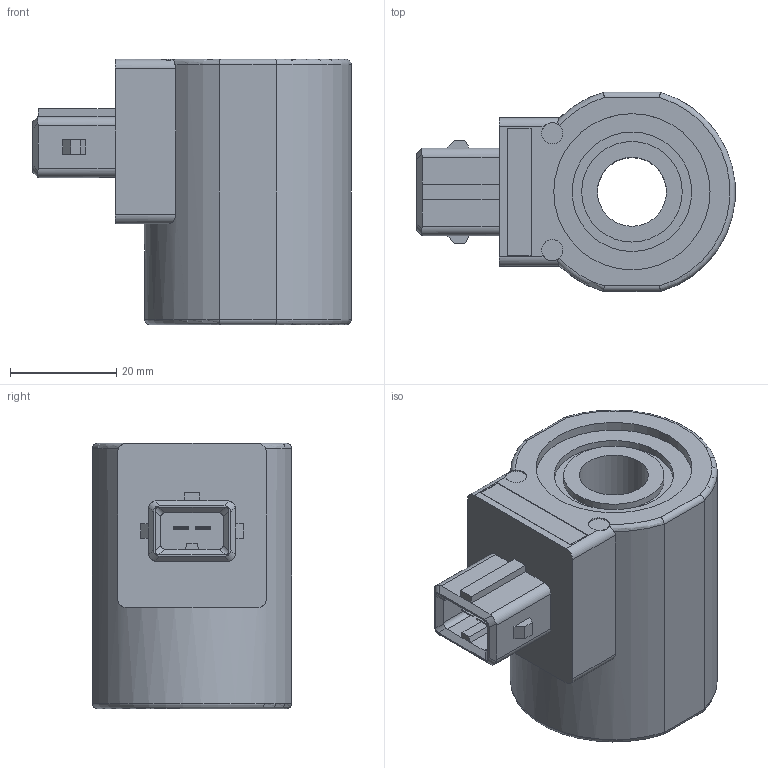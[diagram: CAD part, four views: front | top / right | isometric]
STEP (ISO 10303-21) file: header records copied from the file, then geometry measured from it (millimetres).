
FILE_DESCRIPTION((''),'2;1');
FILE_NAME('Q:\Delta CADD Insertion Codes\3D Solid models\Coils\STEP\DIJ.stp','2012-06-04T10:04:06',('Dan'),(''),'Autodesk Inventor 2012','Autodesk Inventor 2012','');
FILE_SCHEMA(('AUTOMOTIVE_DESIGN { 1 0 10303 214 1 1 1 1 }'));
Length unit declared in the file: inch
Products named in the file (1): Part14
Bounding box: 59.93 x 37.5 x 50 mm (x, y, z)
Volume: 58686.1 mm3; surface area: 13195.2 mm2
Topology: 1 solids, 1 shells, 113 faces, 283 edges, 185 vertices
Faces by surface type: plane 73, cylinder 35, torus 5
Full cylindrical faces by diameter (mm): 4 x2, 13.005 x1, 18.948 x2, 22.504 x2, 29.439 x2
Entity records: 3484 total; most frequent: CARTESIAN_POINT 765, DIRECTION 554, ORIENTED_EDGE 542, EDGE_CURVE 271, AXIS2_PLACEMENT_3D 187, VERTEX_POINT 182, VECTOR 180, LINE 180
